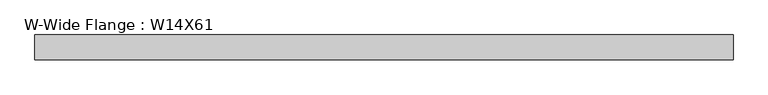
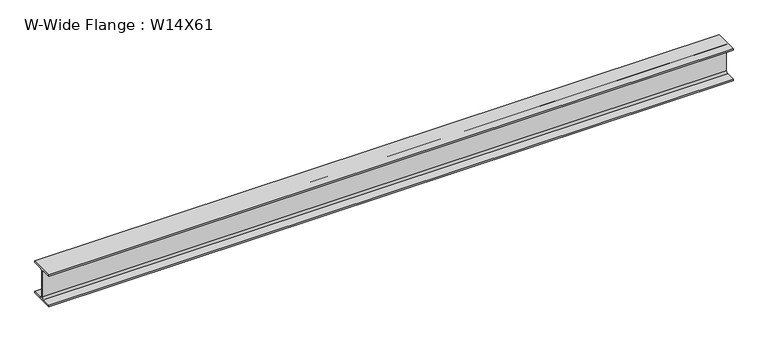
"""IFC4 building model written with IfcOpenShell, lengths in millimetres: beam geometry, W-Wide Flange : W14X61."""

from ifc_helpers import new_model, si_unit, point, frame, frame_2d, origin, place, context, project, spatial, polyline, circle_curve, trimmed, segment, composite_curve, outline, extrude, source, transform, mapped, element, save


def w_wide_flange_w14x61_86819d2a(model_context):
    return source(origin(), model_context, "Body", "SweptSolid", [
        extrude(outline(composite_curve([segment(polyline([(127.0, -160.147), (127.0, -176.53), (-127.0, -176.53), (-127.0, -160.147), (-26.4795, -160.147)]), True, "CONTINUOUS"), segment(trimmed(circle_curve(frame_2d((-26.4795, -138.43)), 21.717), [point((-26.4795, -160.147))], [point((-4.7625, -138.43))], True, "CARTESIAN"), True, "CONTINUOUS"), segment(polyline([(-4.7625, -138.43), (-4.7625, 138.43)]), True, "CONTINUOUS"), segment(trimmed(circle_curve(frame_2d((-26.4795, 138.43)), 21.717), [point((-4.7625, 138.43))], [point((-26.4795, 160.147))], True, "CARTESIAN"), True, "CONTINUOUS"), segment(polyline([(-26.4795, 160.147), (-127.0, 160.147), (-127.0, 176.53), (127.0, 176.53), (127.0, 160.147), (26.4795, 160.147)]), True, "CONTINUOUS"), segment(trimmed(circle_curve(frame_2d((26.4795, 138.43)), 21.717), [point((26.4795, 160.147))], [point((4.7625, 138.43))], True, "CARTESIAN"), True, "CONTINUOUS"), segment(polyline([(4.7625, 138.43), (4.7625, -138.43)]), True, "CONTINUOUS"), segment(trimmed(circle_curve(frame_2d((26.4795, -138.43)), 21.717), [point((4.7625, -138.43))], [point((26.4795, -160.147))], True, "CARTESIAN"), True, "CONTINUOUS"), segment(polyline([(26.4795, -160.147), (127.0, -160.147)]), True, "CONTINUOUS")], self_intersect=False)), frame((-3510.7066406, 0.0, 0.0), z_axis=(1.0, 0.0, 0.0), x_axis=(0.0, 1.0, 0.0)), (0.0, 0.0, 1.0), 7156.3507813),
    ])


if __name__ == "__main__":
    model = new_model("IFC4")
    model_context = context("Model", 3, world=origin())
    ifc_project = project(units=[si_unit("LENGTHUNIT", "METRE", prefix="MILLI")], contexts=[model_context])
    site = spatial("IfcSite", under=ifc_project)
    building = spatial("IfcBuilding", under=site)
    placement = place(None, origin())
    w_wide_flange_w14x61_shape = w_wide_flange_w14x61_86819d2a(model_context)
    element("IfcBeam", 1, ObjectType="W-Wide Flange : W14X61", at=placement, inside=building, context=model_context, shape_type="MappedRepresentation", body=[
        mapped(w_wide_flange_w14x61_shape, transform((0.0, 0.0, 0.0), x_axis=(1.0, 0.0, 0.0), y_axis=(0.0, 1.0, 0.0), z_axis=(0.0, 0.0, 1.0))),
    ])
    save(model, "model.ifc")
